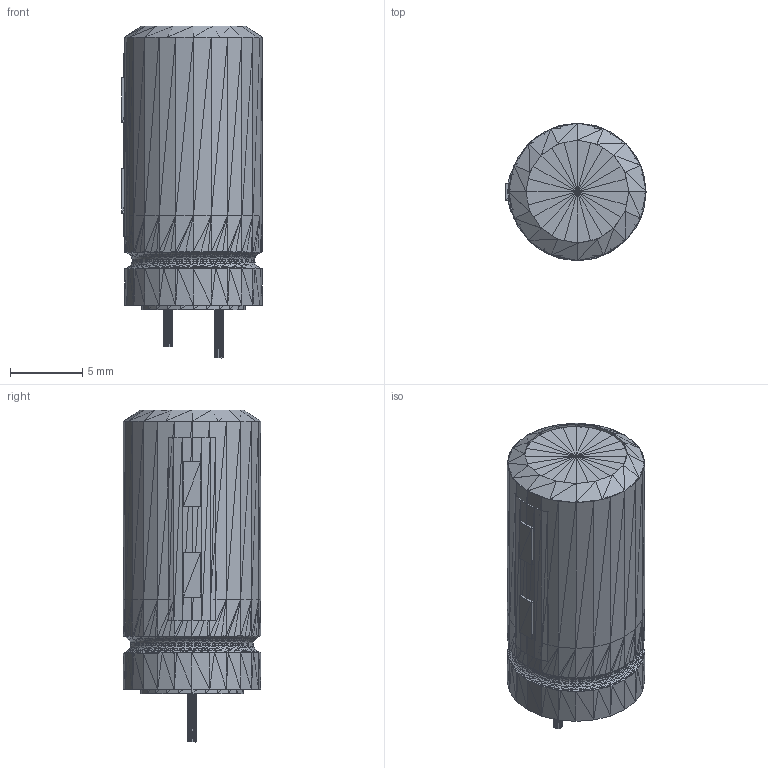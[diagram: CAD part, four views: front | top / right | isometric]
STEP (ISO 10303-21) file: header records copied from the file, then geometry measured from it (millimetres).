
FILE_DESCRIPTION(('HOOPS Exchange Step'),'2;1');
FILE_NAME('***.stp');
FILE_SCHEMA( ('AP242_MANAGED_MODEL_BASED_3D_ENGINEERING_MIM_LF {1 0 10303 442 1 1 4 }') );
Length unit declared in the file: inch
Products named in the file (11): CAPOLV375X750MIL_2; CAPOLV375X750MIL_3; CAPOLV375X750MIL_4; CAPOLV375X750MIL_5; CAPOLV375X750MIL_6; CAPOLV375X750MIL_7; CAPOLV375X750MIL_8; CAPOLV375X750MIL_9; CAPOLV375X750MIL_10; CAPOLV375X750MIL_11; CAPOLV375X750MIL
Assembly tree (10 placements, depth 2):
  CAPOLV375X750MIL
    CAPOLV375X750MIL_2
    CAPOLV375X750MIL_3
    CAPOLV375X750MIL_4
    CAPOLV375X750MIL_5
    CAPOLV375X750MIL_6
    CAPOLV375X750MIL_7
    CAPOLV375X750MIL_8
    CAPOLV375X750MIL_9
    CAPOLV375X750MIL_10
    CAPOLV375X750MIL_11
Bounding box: 9.72 x 9.53 x 23.02 mm (x, y, z)
Volume: 1424.8 mm3; surface area: 1284.9 mm2
Topology: 10 solids, 10 shells, 2004 faces, 3006 edges, 1020 vertices
Faces by surface type: plane 2004
Entity records: 39590 total; most frequent: DIRECTION 7058, CARTESIAN_POINT 6052, ORIENTED_EDGE 6012, VECTOR 3006, LINE 3006, EDGE_CURVE 3006, AXIS2_PLACEMENT_3D 2026, PLANE 2004
